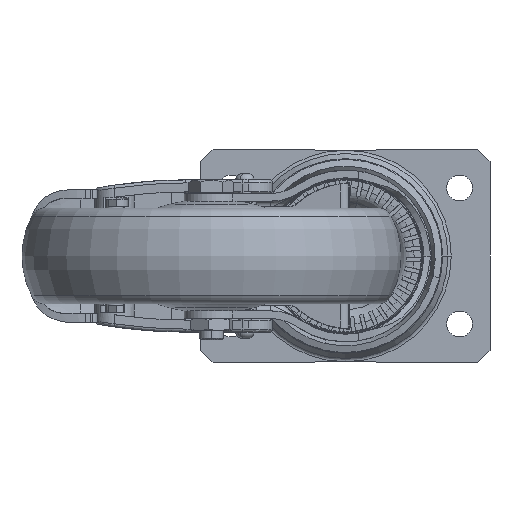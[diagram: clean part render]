
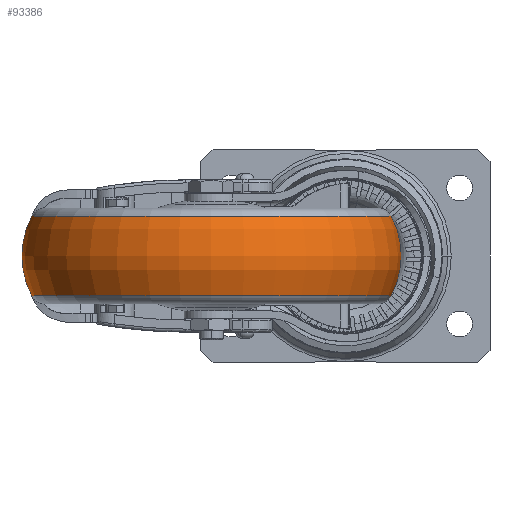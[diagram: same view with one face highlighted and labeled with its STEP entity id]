
A CAD part, front view. The second image highlights one B-rep face of the part: STEP entity #93386.
In plain terms, the highlighted toroidal (fillet/blend) face has major radius 34.25 mm and minor radius 28 mm.
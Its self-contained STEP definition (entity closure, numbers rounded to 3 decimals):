
#6472 = EDGE_LOOP ( 'NONE', ( #91595, #91596, #91598, #91600 ) ) ;
#23860 = EDGE_CURVE ( 'NONE', #55016, #55017, #63227, .T. ) ;
#23865 = EDGE_CURVE ( 'NONE', #55014, #55019, #63235, .T. ) ;
#23888 = EDGE_CURVE ( 'NONE', #55017, #55019, #63260, .T. ) ;
#23891 = EDGE_CURVE ( 'NONE', #55016, #55014, #63270, .T. ) ;
#43471 = TOROIDAL_SURFACE ( 'NONE', #43522, 34.25, 28. ) ;
#43522 = AXIS2_PLACEMENT_3D ( 'NONE', #49440, #49429, #49443 ) ;
#46138 = CARTESIAN_POINT ( 'NONE',  ( 129.914, -116.473, 56.962 ) ) ;
#46139 = CARTESIAN_POINT ( 'NONE',  ( 11.907, -116.473, 56.962 ) ) ;
#46140 = CARTESIAN_POINT ( 'NONE',  ( 11.907, -116.473, 83.136 ) ) ;
#46141 = CARTESIAN_POINT ( 'NONE',  ( 129.914, -116.473, 83.136 ) ) ;
#49429 = DIRECTION ( 'NONE',  ( 0., 0., 1. ) ) ;
#49438 = FACE_OUTER_BOUND ( 'NONE', #6472, .T. ) ;
#49440 = CARTESIAN_POINT ( 'NONE',  ( 70.91, -116.473, 70.049 ) ) ;
#49443 = DIRECTION ( 'NONE',  ( 1., 0., 0. ) ) ;
#55014 = VERTEX_POINT ( 'NONE', #46138 ) ;
#55016 = VERTEX_POINT ( 'NONE', #46139 ) ;
#55017 = VERTEX_POINT ( 'NONE', #46140 ) ;
#55019 = VERTEX_POINT ( 'NONE', #46141 ) ;
#63227 = CIRCLE ( 'NONE', #63233, 28. ) ;
#63233 = AXIS2_PLACEMENT_3D ( 'NONE', #65643, #65646, #65649 ) ;
#63235 = CIRCLE ( 'NONE', #63241, 28. ) ;
#63241 = AXIS2_PLACEMENT_3D ( 'NONE', #65667, #65670, #65673 ) ;
#63260 = CIRCLE ( 'NONE', #63275, 59.003 ) ;
#63270 = CIRCLE ( 'NONE', #63280, 59.003 ) ;
#63275 = AXIS2_PLACEMENT_3D ( 'NONE', #65777, #65779, #65781 ) ;
#63280 = AXIS2_PLACEMENT_3D ( 'NONE', #65785, #65787, #65789 ) ;
#65643 = CARTESIAN_POINT ( 'NONE',  ( 36.66, -116.473, 70.049 ) ) ;
#65646 = DIRECTION ( 'NONE',  ( 0., 1., 0. ) ) ;
#65649 = DIRECTION ( 'NONE',  ( -1., 0., 0. ) ) ;
#65667 = CARTESIAN_POINT ( 'NONE',  ( 105.16, -116.473, 70.049 ) ) ;
#65670 = DIRECTION ( 'NONE',  ( 0., -1., 0. ) ) ;
#65673 = DIRECTION ( 'NONE',  ( 0., 0., -1. ) ) ;
#65777 = CARTESIAN_POINT ( 'NONE',  ( 70.91, -116.473, 83.136 ) ) ;
#65779 = DIRECTION ( 'NONE',  ( 0., 0., 1. ) ) ;
#65781 = DIRECTION ( 'NONE',  ( 1., 0., 0. ) ) ;
#65785 = CARTESIAN_POINT ( 'NONE',  ( 70.91, -116.473, 56.962 ) ) ;
#65787 = DIRECTION ( 'NONE',  ( 0., 0., 1. ) ) ;
#65789 = DIRECTION ( 'NONE',  ( 1., 0., 0. ) ) ;
#91595 = ORIENTED_EDGE ( 'NONE', *, *, #23860, .F. ) ;
#91596 = ORIENTED_EDGE ( 'NONE', *, *, #23891, .T. ) ;
#91598 = ORIENTED_EDGE ( 'NONE', *, *, #23865, .T. ) ;
#91600 = ORIENTED_EDGE ( 'NONE', *, *, #23888, .F. ) ;
#93386 = ADVANCED_FACE ( 'NONE', ( #49438 ), #43471, .T. ) ;
